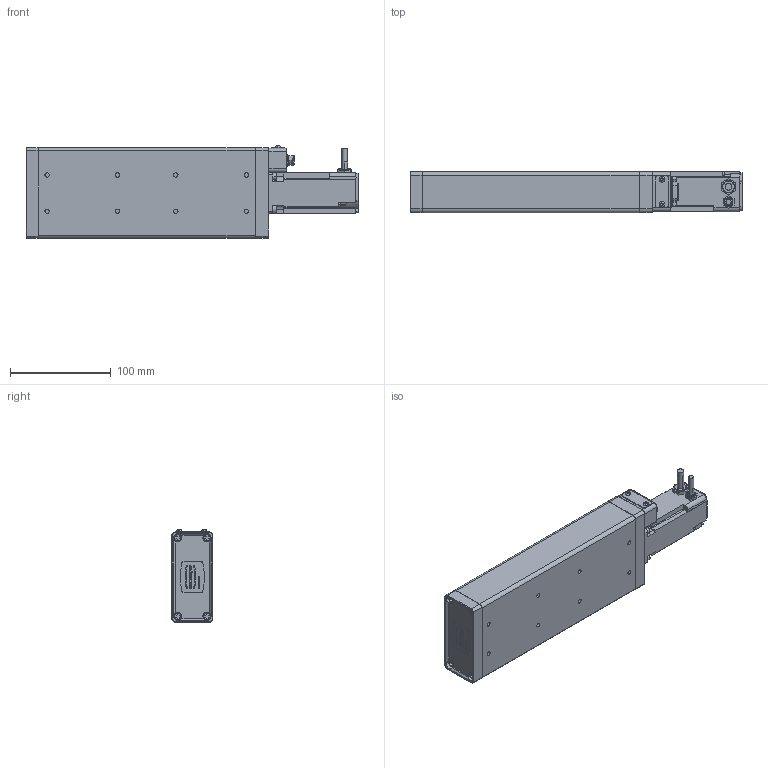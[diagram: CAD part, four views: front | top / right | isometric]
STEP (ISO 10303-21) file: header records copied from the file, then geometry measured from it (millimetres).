
FILE_DESCRIPTION((''),'2;1');
FILE_NAME('STM_LTP90_552183_ASM','2026-04-23T14:16:56',('profile'),(''),'CREO PARAMETRIC BY PTC INC, 2025123','CREO PARAMETRIC BY PTC INC, 2025123','');
FILE_SCHEMA(('AP242_MANAGED_MODEL_BASED_3D_ENGINEERING_MIM_LF { 1 0 10303 442 1 1 4 }'));
Length unit declared in the file: millimetre
Products named in the file (7): STM_GRUND_552181; AL_ALUMINIUM; STM_SCHIE_552180; STM_ABDEC_552179; STM_LTP90_552183_ASM
Assembly tree (3 placements, depth 2):
  AL_ALUMINIUM
  AL_ALUMINIUM
  AL_ALUMINIUM
  STM_LTP90_552183_ASM
    STM_GRUND_552181
    STM_SCHIE_552180
    STM_ABDEC_552179
Bounding box: 330.1 x 41.3 x 92.15 mm (x, y, z)
Volume: 837695.2 mm3; surface area: 149342.7 mm2
Topology: 3 solids, 4 shells, 1164 faces, 2866 edges, 1807 vertices
Faces by surface type: plane 615, cylinder 290, cone 112, extrusion 105, torus 20, sphere 18, bspline 4
Entity records: 52987 total; most frequent: CARTESIAN_POINT 11701, ORIENTED_EDGE 5688, DIRECTION 5624, PRESENTATION_STYLE_ASSIGNMENT 3238, STYLED_ITEM 2883, CURVE_STYLE 2880, EDGE_CURVE 2844, VECTOR 1988
